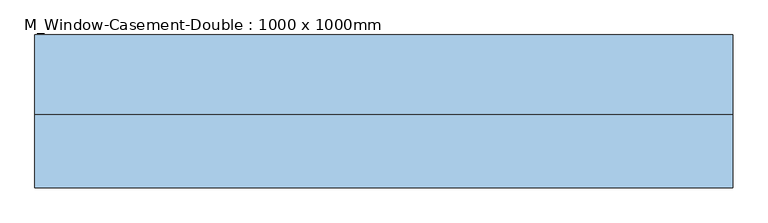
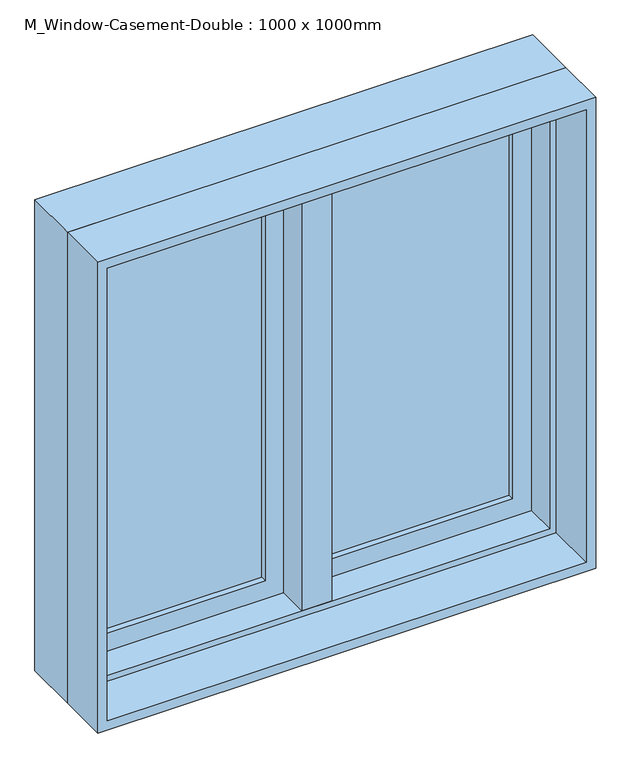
"""IFC4 building model written with IfcOpenShell, lengths in millimetres: window geometry, M_Window-Casement-Double : 1000 x 1000mm."""

from ifc_helpers import new_model, si_unit, frame, origin, place, context, project, spatial, polyline, outline, extrude, faceted_brep, source, transform, mapped, element, save


def m_window_casement_double_1000_x_1000mm_fad33f65(model_context):
    return source(origin(), model_context, "Body", "SolidModel", [
        faceted_brep([(9.525, 119.05, 1887.3), (-9.525, 119.05, 1887.3), (-9.525, 68.25, 1887.3), (9.525, 68.25, 1887.3), (9.525, 119.05, 912.7), (9.525, 68.25, 912.7), (-9.525, 68.25, 912.7), (-9.525, 119.05, 912.7), (-9.525, 68.25, 931.75), (-9.525, 68.25, 1868.25), (-30.1625, 68.25, 931.75), (-30.1625, 68.25, 1868.25), (-30.1625, 4.75, 931.75), (-30.1625, 4.75, 1868.25), (30.1625, 4.75, 931.75), (30.1625, 4.75, 1868.25), (30.1625, 68.25, 931.75), (30.1625, 68.25, 1868.25), (9.525, 68.25, 931.75), (9.525, 68.25, 1868.25)], [[[0, 1, 2, 3]], [[4, 5, 6, 7]], [[1, 0, 4, 7]], [[2, 1, 7, 6, 8, 9]], [[9, 8, 10, 11]], [[11, 10, 12, 13]], [[13, 12, 14, 15]], [[15, 14, 16, 17]], [[17, 16, 18, 19]], [[0, 3, 19, 18, 5, 4]], [[18, 8, 6, 5]], [[9, 19, 3, 2]], [[8, 18, 16, 14, 12, 10]], [[19, 9, 11, 13, 15, 17]]]),
        extrude(outline(polyline([(-66.675, 100.0), (-66.675, 93.65), (-430.15, 93.65), (-430.15, 100.0), (-66.675, 100.0)])), frame((0.0, 0.0, 969.85), z_axis=(0.0, 0.0, 1.0), x_axis=(1.0, 0.0, 0.0)), (0.0, 0.0, 1.0), 860.3),
        extrude(outline(polyline([(-430.15, 80.95), (-430.15, 87.3), (-66.675, 87.3), (-66.675, 80.95), (-430.15, 80.95)])), frame((0.0, 0.0, 969.85), z_axis=(0.0, 0.0, 1.0), x_axis=(1.0, 0.0, 0.0)), (0.0, 0.0, 1.0), 860.3),
        extrude(outline(polyline([(430.15, 100.0), (430.15, 93.65), (66.675, 93.65), (66.675, 100.0), (430.15, 100.0)])), frame((0.0, 0.0, 969.85), z_axis=(0.0, 0.0, 1.0), x_axis=(1.0, 0.0, 0.0)), (0.0, 0.0, 1.0), 860.3),
        extrude(outline(polyline([(66.675, 80.95), (66.675, 87.3), (430.15, 87.3), (430.15, 80.95), (66.675, 80.95)])), frame((0.0, 0.0, 969.85), z_axis=(0.0, 0.0, 1.0), x_axis=(1.0, 0.0, 0.0)), (0.0, 0.0, 1.0), 860.3),
        extrude(outline(polyline([(1887.3, -487.3), (912.7, -487.3), (912.7, -9.525), (1887.3, -9.525), (1887.3, -487.3)]), holes=[polyline([(1830.15, -66.675), (969.85, -66.675), (969.85, -430.15), (1830.15, -430.15), (1830.15, -66.675)])]), frame((0.0, 68.25, 0.0), z_axis=(0.0, 1.0, 0.0), x_axis=(0.0, 0.0, 1.0)), (0.0, 0.0, 1.0), 44.45),
        extrude(outline(polyline([(912.7, 487.3), (1887.3, 487.3), (1887.3, 9.525), (912.7, 9.525), (912.7, 487.3)]), holes=[polyline([(969.85, 66.675), (1830.15, 66.675), (1830.15, 430.15), (969.85, 430.15), (969.85, 66.675)])]), frame((0.0, 68.25, 0.0), z_axis=(0.0, 1.0, 0.0), x_axis=(0.0, 0.0, 1.0)), (0.0, 0.0, 1.0), 44.45),
        extrude(outline(polyline([(1900.0, -500.0), (900.0, -500.0), (900.0, 500.0), (1900.0, 500.0), (1900.0, -500.0)]), holes=[polyline([(1880.95, 480.95), (919.05, 480.95), (919.05, -480.95), (1880.95, -480.95), (1880.95, 480.95)])]), frame((0.0, -100.0, 0.0), z_axis=(0.0, 1.0, 0.0), x_axis=(0.0, 0.0, 1.0)), (0.0, 0.0, 1.0), 104.75),
        faceted_brep([(468.25, 68.25, 1868.25), (468.25, 4.75, 1868.25), (-468.25, 4.75, 1868.25), (-468.25, 68.25, 1868.25), (487.3, 119.05, 1887.3), (487.3, 68.25, 1887.3), (-487.3, 68.25, 1887.3), (-487.3, 119.05, 1887.3), (500.0, 4.75, 1900.0), (500.0, 119.05, 1900.0), (-500.0, 119.05, 1900.0), (-500.0, 4.75, 1900.0), (-468.25, 4.75, 931.75), (-468.25, 68.25, 931.75), (-487.3, 68.25, 912.7), (-487.3, 119.05, 912.7), (-500.0, 119.05, 900.0), (-500.0, 4.75, 900.0), (468.25, 4.75, 931.75), (468.25, 68.25, 931.75), (487.3, 68.25, 912.7), (487.3, 119.05, 912.7), (500.0, 119.05, 900.0), (500.0, 4.75, 900.0)], [[[0, 1, 2, 3]], [[4, 5, 6, 7]], [[8, 9, 10, 11]], [[3, 2, 12, 13]], [[7, 6, 14, 15]], [[11, 10, 16, 17]], [[13, 12, 18, 19]], [[15, 14, 20, 21]], [[17, 16, 22, 23]], [[11, 17, 23, 8], [1, 18, 12, 2]], [[19, 18, 1, 0]], [[5, 20, 14, 6], [3, 13, 19, 0]], [[21, 20, 5, 4]], [[23, 22, 9, 8]], [[9, 22, 16, 10], [7, 15, 21, 4]]]),
    ])


if __name__ == "__main__":
    model = new_model("IFC4")
    model_context = context("Model", 3, world=origin())
    ifc_project = project(units=[si_unit("LENGTHUNIT", "METRE", prefix="MILLI")], contexts=[model_context])
    site = spatial("IfcSite", under=ifc_project)
    building = spatial("IfcBuilding", under=site)
    placement = place(None, origin())
    m_window_casement_double_1000_x_1000mm_shape = m_window_casement_double_1000_x_1000mm_fad33f65(model_context)
    element("IfcWindow", 1, ObjectType="M_Window-Casement-Double : 1000 x 1000mm", at=placement, inside=building, context=model_context, shape_type="MappedRepresentation", body=[
        mapped(m_window_casement_double_1000_x_1000mm_shape, transform((0.0, 0.0, 0.0), x_axis=(1.0, 0.0, 0.0), y_axis=(0.0, 1.0, 0.0), z_axis=(0.0, 0.0, 1.0))),
    ])
    save(model, "model.ifc")
